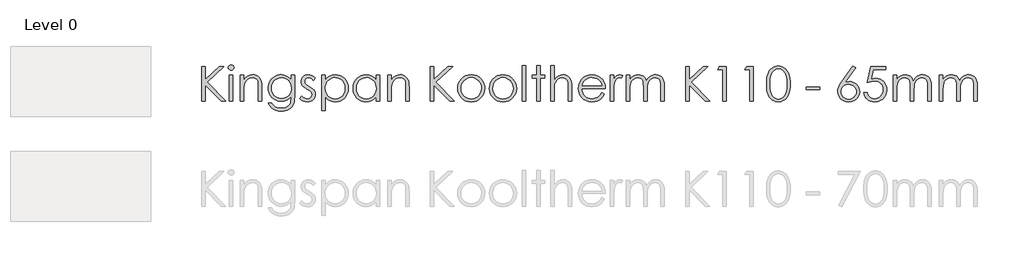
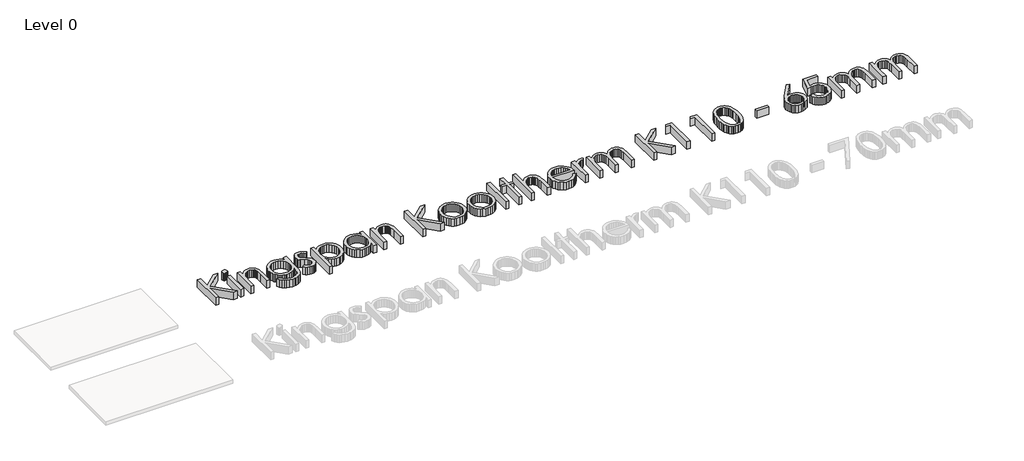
# One storey, part 9 of 9: 1 proxy.
"""IFC4 building model written with IfcOpenShell, lengths in millimetres."""

from ifc_helpers import new_model, si_unit, origin, origin_with_axes, place, context, project, spatial, polyline, outline, extrude, element, save

model = new_model("IFC4")

# Units and contexts
model_context = context("Model", 3, world=origin())
ifc_project = project(units=[si_unit("LENGTHUNIT", "METRE", prefix="MILLI")], contexts=[model_context])

# Site, building, storey
site = spatial("IfcSite", under=ifc_project)
building = spatial("IfcBuilding", under=site)
storey = spatial("IfcBuildingStorey", under=building, Name="Level 0", Elevation=0.0)

# Proxy
placement = place(None, origin())
element("IfcBuildingElementProxy", 1, Name="600mm KI_CenturyGothic", ObjectType="600mm KI_CenturyGothic", at=placement, inside=storey, context=model_context, shape_type="SweptSolid", body=[
    extrude(outline(polyline([(-3852.2663848, 5900.8965983), (-3792.944575, 5900.8965983), (-3792.944575, 5681.683973), (-3555.1938841, 5900.8965983), (-3471.6181051, 5900.8965983), (-3760.9664119, 5633.9484541), (-3441.9572002, 5307.6785001), (-3520.8984627, 5307.6785001), (-3792.944575, 5585.9039675), (-3792.944575, 5307.6785001), (-3852.2663848, 5307.6785001), (-3852.2663848, 5900.8965983)])), origin_with_axes(), (0.0, 0.0, 1.0), 150.0),
    extrude(outline(polyline([(-3348.1854852, 5930.5575033), (-3329.145347, 5927.2747208), (-3313.1176445, 5917.4263735), (-3302.226531, 5902.9821307), (-3298.5961598, 5885.911662), (-3302.226531, 5869.0729191), (-3313.1176445, 5854.7059183), (-3329.145347, 5844.857571), (-3348.1854852, 5841.5747885), (-3366.9938975, 5844.857571), (-3382.9443581, 5854.7059183), (-3393.8354717, 5869.0729191), (-3397.4658428, 5885.911662), (-3393.8354717, 5902.9821307), (-3382.9443581, 5917.4263735), (-3366.9938975, 5927.2747208), (-3348.1854852, 5930.5575033)])), origin_with_axes(), (0.0, 0.0, 1.0), 150.0),
    extrude(outline(polyline([(-3377.6919062, 5752.5920738), (-3318.3700964, 5752.5920738), (-3318.3700964, 5307.6785001), (-3377.6919062, 5307.6785001), (-3377.6919062, 5752.5920738)])), origin_with_axes(), (0.0, 0.0, 1.0), 150.0),
    extrude(outline(polyline([(-3189.8395084, 5752.5920738), (-3130.5176986, 5752.5920738), (-3130.5176986, 5673.4963274), (-3096.9946967, 5713.0055796), (-3060.0730495, 5740.696815), (-3019.7141359, 5757.0334853), (-2975.879335, 5762.4790421), (-2953.4357238, 5760.9004099), (-2932.2955704, 5756.1645135), (-2912.4588747, 5748.2713528), (-2893.9256368, 5737.2209277), (-2877.212412, 5723.4960006), (-2862.835756, 5707.5793333), (-2841.0921499, 5669.1707787), (-2833.6238199, 5644.7912914), (-2828.2892984, 5614.4448643), (-2824.0216812, 5535.8511905), (-2824.0216812, 5307.6785001), (-2883.343491, 5307.6785001), (-2883.343491, 5520.8662542), (-2883.343491, 5623.907002), (-2884.7290183, 5644.7043943), (-2889.8125035, 5662.7596977), (-2898.2849788, 5678.0729123), (-2910.1464442, 5690.644038), (-2924.7403432, 5700.4441091), (-2941.4101193, 5707.4441599), (-2980.977303, 5713.0442006), (-3005.3471351, 5710.8862539), (-3028.4038541, 5704.4124138), (-3050.1474602, 5693.6226803), (-3070.5779533, 5678.5170534), (-3088.6622225, 5660.2348518), (-3103.3671568, 5639.915394), (-3114.6927562, 5617.55868), (-3122.6390208, 5593.1647099), (-3128.5480292, 5546.0857475), (-3130.5176986, 5471.5858965), (-3130.5176986, 5307.6785001), (-3189.8395084, 5307.6785001), (-3189.8395084, 5752.5920738)])), origin_with_axes(), (0.0, 0.0, 1.0), 150.0),
    extrude(outline(polyline([(-2319.7862977, 5752.5920738), (-2260.4644879, 5752.5920738), (-2260.4644879, 5401.604699), (-2264.5196897, 5321.3503235), (-2269.588692, 5290.5500999), (-2276.6852953, 5265.9678526), (-2289.9371156, 5237.3545415), (-2307.2924139, 5212.2267729), (-2328.7511904, 5190.5845469), (-2354.3134448, 5172.4278634), (-2383.3226209, 5158.0656902), (-2415.122162, 5147.8069951), (-2449.7120682, 5141.651778), (-2487.0923395, 5139.6000389), (-2541.0458345, 5143.6166198), (-2589.206184, 5155.6663624), (-2630.260275, 5174.4940853), (-2662.8949946, 5198.8446068), (-2690.2000204, 5232.1938144), (-2715.2650299, 5278.0175952), (-2655.94322, 5278.0175952), (-2642.4355358, 5256.848476), (-2627.0933555, 5238.6048954), (-2609.9166791, 5223.2868532), (-2590.9055067, 5210.8943494), (-2569.7894914, 5201.3308318), (-2546.2982864, 5194.4997477), (-2492.1903075, 5189.0348805), (-2438.5071593, 5194.3645743), (-2415.083541, 5201.0266916), (-2393.93856, 5210.3536559), (-2359.6624492, 5234.3952097), (-2336.8567664, 5263.8823202), (-2329.3884364, 5282.5217658), (-2324.0539149, 5306.2302137), (-2319.7862977, 5368.8541165), (-2319.7862977, 5391.5632468), (-2354.757586, 5355.7809182), (-2396.6420279, 5329.3834852), (-2443.392712, 5313.1047464), (-2492.9627269, 5307.6785001), (-2522.4063889, 5309.5757553), (-2550.9521133, 5315.2675207), (-2578.5999001, 5324.7537964), (-2605.3497494, 5338.0345825), (-2630.1540674, 5354.5257366), (-2651.9652601, 5373.6431168), (-2670.7833277, 5395.3867228), (-2686.6082702, 5419.7565549), (-2699.1456025, 5446.0719183), (-2708.1008399, 5473.6521184), (-2713.4739824, 5502.4971553), (-2715.2650299, 5532.607029), (-2713.3967404, 5562.8955247), (-2707.7918722, 5592.1219437), (-2698.4504251, 5620.286286), (-2685.3723991, 5647.3885517), (-2668.9971079, 5672.5742517), (-2649.7638648, 5694.9888971), (-2627.67267, 5714.632488), (-2602.7235235, 5731.5050242), (-2575.9833294, 5745.056157), (-2548.5189922, 5754.7355376), (-2520.3305117, 5760.543166), (-2491.4178881, 5762.4790421), (-2444.5320306, 5757.5355579), (-2400.8903346, 5742.7051055), (-2359.6045177, 5716.1338782), (-2319.7862977, 5675.9680694), (-2319.7862977, 5752.5920738)]), holes=[polyline([(-2484.1571458, 5713.0442006), (-2529.0154023, 5707.0193293), (-2570.5908765, 5688.9447153), (-2606.2187212, 5660.2300242), (-2633.2340897, 5622.2849212), (-2650.2659375, 5578.0059792), (-2655.94322, 5530.2897708), (-2653.0080263, 5494.3770964), (-2644.2024452, 5461.7182387), (-2629.5264766, 5432.3131977), (-2608.9801206, 5406.1619734), (-2583.7606272, 5384.703197), (-2555.0652466, 5369.3754996), (-2522.8939786, 5360.1788811), (-2487.2468234, 5357.1133416), (-2451.3244937, 5360.154743), (-2419.1001219, 5369.2789472), (-2390.573708, 5384.4859541), (-2365.7452519, 5405.7757637), (-2345.6382095, 5432.0187128), (-2331.2760363, 5462.0851379), (-2322.6587323, 5495.975039), (-2319.7862977, 5533.6884162), (-2325.0773706, 5582.3894593), (-2340.9505892, 5625.6063246), (-2366.4983608, 5661.8327944), (-2400.8130926, 5689.5626508), (-2440.9982119, 5707.1738131), (-2484.1571458, 5713.0442006)])]), origin_with_axes(), (0.0, 0.0, 1.0), 150.0),
    extrude(outline(polyline([(-1904.5336289, 5701.3034257), (-1940.9918246, 5663.609359), (-1962.9575012, 5685.2371022), (-1984.6721416, 5700.6854902), (-2006.1357456, 5709.954523), (-2027.3483133, 5713.0442006), (-2052.181597, 5708.3710632), (-2073.2300256, 5694.3516511), (-2087.5970264, 5674.1142629), (-2092.3860267, 5650.787197), (-2088.4466878, 5629.2366958), (-2076.628671, 5608.7675817), (-2052.0657341, 5586.599145), (-2010.2006027, 5560.877579), (-1958.3326401, 5528.0111336), (-1939.8428507, 5512.1861912), (-1926.315856, 5496.7667689), (-1909.9791857, 5464.0934284), (-1904.5336289, 5427.5579908), (-1906.9474396, 5401.4115941), (-1914.1888714, 5377.3507299), (-1926.2579245, 5355.375398), (-1943.1545989, 5335.4855985), (-1963.6719892, 5318.9944443), (-1986.6031901, 5307.2150485), (-2011.9482016, 5300.147411), (-2039.7070237, 5297.7915318), (-2077.4397114, 5301.6729393), (-2113.3958344, 5313.3171617), (-2145.4512394, 5331.7972958), (-2171.4817731, 5356.1864383), (-2135.7959969, 5396.6612148), (-2114.0041146, 5375.0334717), (-2091.5749863, 5359.5850837), (-2068.5086121, 5350.3160509), (-2044.8049918, 5347.2263733), (-2013.637869, 5352.8650349), (-1987.4914724, 5369.7810198), (-1969.7644472, 5394.3439566), (-1963.8554388, 5422.9234744), (-1967.7561567, 5446.7139919), (-1979.4583106, 5467.7237995), (-2005.0253927, 5489.4287846), (-2050.2119275, 5516.2317378), (-2099.762632, 5546.8967879), (-2117.441381, 5562.0555186), (-2130.3890611, 5577.0983864), (-2146.3781427, 5609.2310334), (-2151.7078365, 5645.689229), (-2149.5305794, 5669.7356104), (-2142.9988078, 5691.6674937), (-2132.1125219, 5711.4848789), (-2116.8717217, 5729.187766), (-2098.309518, 5743.7526993), (-2077.4590218, 5754.1562231), (-2054.3202332, 5760.3983373), (-2028.8931521, 5762.4790421), (-1997.9481, 5758.6555661), (-1966.9064954, 5747.185138), (-1935.7683384, 5728.0677579), (-1904.5336289, 5701.3034257)])), origin_with_axes(), (0.0, 0.0, 1.0), 150.0),
    extrude(outline(polyline([(-1795.7769776, 5752.5920738), (-1736.4551678, 5752.5920738), (-1736.4551678, 5671.4880369), (-1700.9238754, 5711.7310876), (-1660.4490989, 5740.0788795), (-1614.9922173, 5756.8790014), (-1564.5146096, 5762.4790421), (-1520.0618732, 5758.2403906), (-1478.9305402, 5745.5244363), (-1441.1206107, 5724.331179), (-1406.6320845, 5694.6606189), (-1377.9077381, 5659.0231189), (-1357.3903478, 5619.929042), (-1345.0799137, 5577.3783884), (-1340.9764356, 5531.371158), (-1345.0412927, 5484.4708176), (-1357.235864, 5441.2491246), (-1377.5601494, 5401.706079), (-1406.014149, 5365.8416808), (-1440.2130179, 5336.0697406), (-1477.7719111, 5314.8040691), (-1518.6908288, 5302.0446661), (-1562.9697708, 5297.7915318), (-1612.6170277, 5303.256399), (-1658.0545988, 5319.6510008), (-1699.3211052, 5346.8980951), (-1736.4551678, 5384.92044), (-1736.4551678, 5149.4870072), (-1795.7769776, 5149.4870072), (-1795.7769776, 5752.5920738)]), holes=[polyline([(-1568.5311905, 5713.0442006), (-1602.5852307, 5709.7469353), (-1633.8392507, 5699.8551393), (-1662.2932503, 5683.3688128), (-1687.9472295, 5660.2879556), (-1709.1694525, 5632.3022353), (-1724.3281832, 5601.1013192), (-1733.4234216, 5566.6852074), (-1736.4551678, 5529.0538998), (-1731.048232, 5480.1983728), (-1714.8274246, 5436.5180558), (-1688.5265441, 5399.6736505), (-1652.8793888, 5371.3258586), (-1611.4390881, 5353.2512446), (-1567.7587711, 5347.2263733), (-1525.0632888, 5353.2898656), (-1485.0326535, 5371.4803424), (-1450.2544701, 5400.5812433), (-1423.3163435, 5439.3760076), (-1406.05277, 5484.0411593), (-1400.2982454, 5530.7532225), (-1405.9948385, 5577.6970114), (-1423.0846177, 5622.1304373), (-1449.8103289, 5660.4810605), (-1484.414718, 5689.1764411), (-1524.7157001, 5707.0772607), (-1568.5311905, 5713.0442006)])]), origin_with_axes(), (0.0, 0.0, 1.0), 150.0),
    extrude(outline(polyline([(-807.0801472, 5752.5920738), (-807.0801472, 5307.6785001), (-866.401957, 5307.6785001), (-866.401957, 5383.5300851), (-903.4780882, 5345.6815345), (-944.8797679, 5318.9558233), (-990.4525125, 5303.0826047), (-1040.0418379, 5297.7915318), (-1084.3159523, 5302.0446661), (-1125.2203871, 5314.8040691), (-1162.7551422, 5336.0697406), (-1196.9202178, 5365.8416808), (-1225.340424, 5401.706079), (-1245.6405713, 5441.2491246), (-1257.8206597, 5484.4708176), (-1261.8806892, 5531.371158), (-1257.7820388, 5577.3783884), (-1245.4860875, 5619.929042), (-1224.9928353, 5659.0231189), (-1196.3022822, 5694.6606189), (-1161.8475494, 5724.331179), (-1124.061758, 5745.5244363), (-1082.9449079, 5758.2403906), (-1038.4969991, 5762.4790421), (-987.7490446, 5756.8790014), (-942.0990581, 5740.0788795), (-921.2051134, 5727.3918909), (-901.6242816, 5711.7310876), (-866.401957, 5671.4880369), (-866.401957, 5752.5920738), (-807.0801472, 5752.5920738)]), holes=[polyline([(-1034.3259343, 5713.0442006), (-1078.1414247, 5707.0772607), (-1118.4424068, 5689.1764411), (-1153.0467959, 5660.4810605), (-1179.7725071, 5622.1304373), (-1196.8622863, 5577.6970114), (-1202.5588794, 5530.7532225), (-1196.8043548, 5484.0411593), (-1179.5407813, 5439.3760076), (-1152.6026548, 5400.5812433), (-1117.8244713, 5371.4803424), (-1077.6779731, 5353.2898656), (-1034.6349021, 5347.2263733), (-991.0125165, 5353.2512446), (-949.7460102, 5371.3258586), (-914.2726493, 5399.6736505), (-888.0297002, 5436.5180558), (-871.8088928, 5480.1983728), (-866.401957, 5529.0538998), (-869.4337032, 5566.6852074), (-878.5289416, 5601.1013192), (-893.6876723, 5632.3022353), (-914.9098953, 5660.2879556), (-940.5638746, 5683.3688128), (-969.0178742, 5699.8551393), (-1000.2718941, 5709.7469353), (-1034.3259343, 5713.0442006)])]), origin_with_axes(), (0.0, 0.0, 1.0), 150.0),
    extrude(outline(polyline([(-668.662591, 5752.5920738), (-609.3407811, 5752.5920738), (-609.3407811, 5673.4963274), (-575.8177792, 5713.0055796), (-538.896132, 5740.696815), (-498.5372184, 5757.0334853), (-454.7024175, 5762.4790421), (-432.2588064, 5760.9004099), (-411.1186529, 5756.1645135), (-391.2819572, 5748.2713528), (-372.7487193, 5737.2209277), (-356.0354946, 5723.4960006), (-341.6588385, 5707.5793333), (-319.9152324, 5669.1707787), (-312.4469024, 5644.7912914), (-307.1123809, 5614.4448643), (-302.8447637, 5535.8511905), (-302.8447637, 5307.6785001), (-362.1665735, 5307.6785001), (-362.1665735, 5520.8662542), (-362.1665735, 5623.907002), (-363.5521008, 5644.7043943), (-368.635586, 5662.7596977), (-377.1080613, 5678.0729123), (-388.9695267, 5690.644038), (-403.5634257, 5700.4441091), (-420.2332018, 5707.4441599), (-459.8003855, 5713.0442006), (-484.1702176, 5710.8862539), (-507.2269366, 5704.4124138), (-528.9705427, 5693.6226803), (-549.4010358, 5678.5170534), (-567.485305, 5660.2348518), (-582.1902393, 5639.915394), (-593.5158387, 5617.55868), (-601.4621033, 5593.1647099), (-607.3711117, 5546.0857475), (-609.3407811, 5471.5858965), (-609.3407811, 5307.6785001), (-668.662591, 5307.6785001), (-668.662591, 5752.5920738)])), origin_with_axes(), (0.0, 0.0, 1.0), 150.0),
    extrude(outline(polyline([(62.9730635, 5900.8965983), (122.2948734, 5900.8965983), (122.2948734, 5681.683973), (360.0455643, 5900.8965983), (443.6213432, 5900.8965983), (154.2730365, 5633.9484541), (473.2822481, 5307.6785001), (394.3409856, 5307.6785001), (122.2948734, 5585.9039675), (122.2948734, 5307.6785001), (62.9730635, 5307.6785001), (62.9730635, 5900.8965983)])), origin_with_axes(), (0.0, 0.0, 1.0), 150.0),
    extrude(outline(polyline([(760.1588128, 5762.4790421), (809.4681362, 5757.8541809), (854.3553585, 5743.9795975), (894.8204798, 5720.8552917), (930.8635, 5688.4812637), (957.7630055, 5653.2492839), (976.9769381, 5614.908316), (988.5052976, 5573.45836), (992.3480841, 5528.8994159), (988.283227, 5484.0846079), (976.0886558, 5442.1760279), (955.7643703, 5403.1736759), (927.3103707, 5367.0775519), (892.4742558, 5336.7649181), (853.0036246, 5315.1130368), (808.8984769, 5302.1219081), (760.1588128, 5297.7915318), (711.2839754, 5302.1219081), (667.0822753, 5315.1130368), (627.5537126, 5336.7649181), (592.6982872, 5367.0775519), (564.2442876, 5403.1736759), (543.9200022, 5442.1760279), (531.7254309, 5484.0846079), (527.6605738, 5528.8994159), (531.5033603, 5573.2652551), (543.0317198, 5614.5993482), (562.2456524, 5652.9016951), (589.145158, 5688.1722959), (625.2074886, 5720.6814974), (665.7305413, 5743.9023555), (710.7143161, 5757.8348705), (760.1588128, 5762.4790421)]), holes=[polyline([(760.004329, 5713.0442006), (725.7282181, 5709.6696933), (693.9624704, 5699.5461716), (664.7070856, 5682.6736353), (637.962064, 5659.0520846), (615.6584538, 5630.6415336), (599.7273037, 5599.4019965), (590.1686137, 5565.3334734), (586.9823836, 5528.4359643), (592.7948396, 5480.7004454), (610.2322075, 5436.3635719), (637.5758543, 5398.5729529), (673.1071466, 5370.4761972), (714.6439998, 5353.0388293), (760.004329, 5347.2263733), (805.3646581, 5353.0388293), (846.9015113, 5370.4761972), (882.4328037, 5398.5729529), (909.7764504, 5436.3635719), (927.2138183, 5480.7004454), (933.0262743, 5528.4359643), (929.8255614, 5565.3334734), (920.2234227, 5599.4019965), (904.2198583, 5630.6415336), (881.8148681, 5659.0520846), (854.9974321, 5682.6736353), (825.7565303, 5699.5461716), (794.0921625, 5709.6696933), (760.004329, 5713.0442006)])]), origin_with_axes(), (0.0, 0.0, 1.0), 150.0),
    extrude(outline(polyline([(1303.9420695, 5762.4790421), (1353.2513929, 5757.8541809), (1398.1386152, 5743.9795975), (1438.6037365, 5720.8552917), (1474.6467567, 5688.4812637), (1501.5462622, 5653.2492839), (1520.7601948, 5614.908316), (1532.2885543, 5573.45836), (1536.1313408, 5528.8994159), (1532.0664837, 5484.0846079), (1519.8719125, 5442.1760279), (1499.547627, 5403.1736759), (1471.0936274, 5367.0775519), (1436.2575126, 5336.7649181), (1396.7868813, 5315.1130368), (1352.6817336, 5302.1219081), (1303.9420695, 5297.7915318), (1255.0672321, 5302.1219081), (1210.865532, 5315.1130368), (1171.3369693, 5336.7649181), (1136.4815439, 5367.0775519), (1108.0275443, 5403.1736759), (1087.7032589, 5442.1760279), (1075.5086876, 5484.0846079), (1071.4438305, 5528.8994159), (1075.286617, 5573.2652551), (1086.8149766, 5614.5993482), (1106.0289091, 5652.9016951), (1132.9284147, 5688.1722959), (1168.9907453, 5720.6814974), (1209.5137981, 5743.9023555), (1254.4975728, 5757.8348705), (1303.9420695, 5762.4790421)]), holes=[polyline([(1303.7875857, 5713.0442006), (1269.5114748, 5709.6696933), (1237.7457271, 5699.5461716), (1208.4903423, 5682.6736353), (1181.7453207, 5659.0520846), (1159.4417105, 5630.6415336), (1143.5105604, 5599.4019965), (1133.9518704, 5565.3334734), (1130.7656404, 5528.4359643), (1136.5780963, 5480.7004454), (1154.0154643, 5436.3635719), (1181.359111, 5398.5729529), (1216.8904033, 5370.4761972), (1258.4272565, 5353.0388293), (1303.7875857, 5347.2263733), (1349.1479149, 5353.0388293), (1390.684768, 5370.4761972), (1426.2160604, 5398.5729529), (1453.5597071, 5436.3635719), (1470.997075, 5480.7004454), (1476.809531, 5528.4359643), (1473.6088181, 5565.3334734), (1464.0066795, 5599.4019965), (1448.003115, 5630.6415336), (1425.5981249, 5659.0520846), (1398.7806889, 5682.6736353), (1369.539787, 5699.5461716), (1337.8754193, 5709.6696933), (1303.7875857, 5713.0442006)])]), origin_with_axes(), (0.0, 0.0, 1.0), 150.0),
    extrude(outline(polyline([(1635.0010238, 5920.6705349), (1694.3228337, 5920.6705349), (1694.3228337, 5307.6785001), (1635.0010238, 5307.6785001), (1635.0010238, 5920.6705349)])), origin_with_axes(), (0.0, 0.0, 1.0), 150.0),
    extrude(outline(polyline([(1882.1752314, 5920.6705349), (1941.4970413, 5920.6705349), (1941.4970413, 5752.5920738), (2020.5927877, 5752.5920738), (2020.5927877, 5703.1572323), (1941.4970413, 5703.1572323), (1941.4970413, 5307.6785001), (1882.1752314, 5307.6785001), (1882.1752314, 5703.1572323), (1803.079485, 5703.1572323), (1803.079485, 5752.5920738), (1882.1752314, 5752.5920738), (1882.1752314, 5920.6705349)])), origin_with_axes(), (0.0, 0.0, 1.0), 150.0),
    extrude(outline(polyline([(2119.4624707, 5920.6705349), (2178.7842806, 5920.6705349), (2178.7842806, 5671.9514886), (2212.5583188, 5711.6538456), (2249.6151394, 5739.9243956), (2289.9161216, 5756.8403805), (2333.4226442, 5762.4790421), (2355.8662553, 5760.9004099), (2377.0064088, 5756.1645135), (2396.8431044, 5748.2713528), (2415.3763424, 5737.2209277), (2432.0895671, 5723.5104834), (2446.4662232, 5707.6372648), (2468.2098293, 5669.4025045), (2475.6781593, 5645.0954316), (2481.0126808, 5614.7345216), (2485.280298, 5535.8511905), (2485.280298, 5307.6785001), (2425.9584882, 5307.6785001), (2425.9584882, 5520.8662542), (2424.5681332, 5585.247411), (2420.3970685, 5623.907002), (2406.879729, 5662.7596977), (2397.1665551, 5678.0729123), (2385.4837117, 5690.644038), (2371.840854, 5700.4441091), (2356.2476374, 5707.4441599), (2319.2101273, 5713.0442006), (2296.3416854, 5710.8862539), (2274.6994594, 5704.4124138), (2254.2834492, 5693.6226803), (2235.0936547, 5678.5170534), (2218.1052556, 5660.2348518), (2204.2934312, 5639.915394), (2193.6581816, 5617.55868), (2186.1995068, 5593.1647099), (2180.6380871, 5546.3174733), (2178.7842806, 5471.5858965), (2178.7842806, 5307.6785001), (2119.4624707, 5307.6785001), (2119.4624707, 5920.6705349)])), origin_with_axes(), (0.0, 0.0, 1.0), 150.0),
    extrude(outline(polyline([(2991.0605203, 5455.9830247), (3038.950523, 5430.8021523), (3013.3255094, 5388.9177104), (2984.0315038, 5355.9547125), (2950.952643, 5330.8703926), (2913.9730643, 5312.6219843), (2872.4941426, 5301.4991449), (2825.9172528, 5297.7915318), (2774.4258447, 5302.2232881), (2728.8627554, 5315.518557), (2689.227985, 5337.6773385), (2655.5215335, 5368.6996326), (2628.6220279, 5405.3026569), (2609.4080954, 5444.2036288), (2597.8797358, 5485.4025485), (2594.0369493, 5528.8994159), (2597.3197318, 5569.7797126), (2607.1680791, 5608.381372), (2623.5819913, 5644.7043943), (2646.5614684, 5678.7487793), (2682.7493173, 5715.3807692), (2724.5758277, 5741.5464764), (2772.0409998, 5757.2459007), (2825.1448334, 5762.4790421), (2879.7935059, 5757.1107273), (2928.6490329, 5741.0057828), (2971.7114143, 5714.1642087), (3008.9806503, 5676.5860049), (3030.4539096, 5644.414737), (3045.9022976, 5608.458614), (3055.3258143, 5568.7176359), (3058.7244596, 5525.1918028), (2653.3587591, 5525.1918028), (2657.095338, 5487.9370497), (2666.6057518, 5454.1871496), (2681.8900007, 5423.9421025), (2702.9480845, 5397.2019084), (2728.3124066, 5375.3376118), (2756.5153699, 5359.7202571), (2787.5569744, 5350.3498443), (2821.4372203, 5347.2263733), (2854.9602222, 5350.238809), (2887.5563208, 5359.2761159), (2917.2944677, 5373.3148385), (2942.2436143, 5391.331521), (2965.725164, 5417.4972281), (2991.0605203, 5455.9830247)]), holes=[polyline([(2999.4026498, 5574.6266443), (2984.9777175, 5617.1483322), (2965.1844704, 5650.1692615), (2939.0766947, 5675.6977226), (2905.7081767, 5695.742006), (2867.7630738, 5708.7186519), (2827.9255433, 5713.0442006), (2795.503239, 5710.3310774), (2765.4368139, 5702.191708), (2737.726268, 5688.6260923), (2712.3716012, 5669.6342304), (2695.8321708, 5651.820308), (2681.4362043, 5630.0477362), (2669.1837016, 5604.316515), (2659.0746627, 5574.6266443), (2999.4026498, 5574.6266443)])]), origin_with_axes(), (0.0, 0.0, 1.0), 150.0),
    extrude(outline(polyline([(3137.820206, 5752.5920738), (3197.1420159, 5752.5920738), (3197.1420159, 5688.1722959), (3222.6897875, 5721.2125357), (3249.589293, 5744.3271862), (3277.7632906, 5757.9410781), (3307.1345382, 5762.4790421), (3330.4616041, 5758.694187), (3355.3335087, 5747.3396219), (3325.8270877, 5705.3200066), (3297.2475699, 5713.0442006), (3270.8308265, 5707.0965712), (3245.3409863, 5689.2536831), (3223.2884125, 5658.8976007), (3207.183468, 5615.4103886), (3199.6523789, 5557.2858288), (3197.1420159, 5459.8451217), (3197.1420159, 5307.6785001), (3137.820206, 5307.6785001), (3137.820206, 5752.5920738)])), origin_with_axes(), (0.0, 0.0, 1.0), 150.0),
    extrude(outline(polyline([(3414.6553185, 5752.5920738), (3473.9771284, 5752.5920738), (3473.9771284, 5676.4315211), (3503.5607913, 5712.9283377), (3533.9168737, 5738.0705891), (3577.3268439, 5756.3769288), (3622.8995884, 5762.4790421), (3653.7384329, 5759.331433), (3682.9165757, 5749.8886059), (3708.6767627, 5735.2126373), (3729.2617397, 5716.365604), (3746.0425511, 5690.9336953), (3760.3902414, 5656.5031006), (3775.16759, 5680.9018983), (3791.6925376, 5702.191708), (3809.965084, 5720.3725296), (3829.9852293, 5735.4443631), (3851.2798666, 5747.2720352), (3873.375889, 5755.7203723), (3896.2732965, 5760.7893747), (3919.9720892, 5762.4790421), (3962.3006723, 5756.6665861), (3981.4952943, 5749.4010161), (3999.3768034, 5739.2292182), (4015.4914031, 5726.46016), (4029.385297, 5711.4028093), (4050.5109676, 5674.4232306), (4057.8103309, 5651.0478886), (4063.0241619, 5622.4780261), (4067.1952266, 5549.7547397), (4067.1952266, 5307.6785001), (4007.8734168, 5307.6785001), (4007.8734168, 5553.3078689), (4005.4209852, 5614.4255538), (3998.0636904, 5652.8727294), (3984.7587663, 5677.3391139), (3964.4634466, 5696.5144254), (3938.3942919, 5708.9117568), (3907.7678627, 5713.0442006), (3888.1194443, 5711.4945341), (3869.3399976, 5706.8455349), (3834.3880198, 5688.2495379), (3805.6540182, 5659.3031209), (3785.8800816, 5622.0531954), (3779.1889985, 5597.8957787), (3774.4096535, 5566.8252084), (3770.5861775, 5483.9446069), (3770.5861775, 5307.6785001), (3711.2643677, 5307.6785001), (3711.2643677, 5538.0139648), (3708.850557, 5606.469634), (3701.6091252, 5648.7016647), (3688.3621325, 5674.9446137), (3667.9316394, 5695.4330383), (3641.6114484, 5708.64141), (3610.6953619, 5713.0442006), (3573.7544042, 5707.0000188), (3539.2465676, 5688.8674734), (3510.2808401, 5660.500371), (3489.9662099, 5623.7525181), (3477.9743988, 5571.9231764), (3473.9771284, 5498.3116077), (3473.9771284, 5307.6785001), (3414.6553185, 5307.6785001), (3414.6553185, 5752.5920738)])), origin_with_axes(), (0.0, 0.0, 1.0), 150.0),
    extrude(outline(polyline([(4433.0130538, 5900.8965983), (4492.3348637, 5900.8965983), (4492.3348637, 5681.683973), (4730.0855546, 5900.8965983), (4813.6613335, 5900.8965983), (4524.3130268, 5633.9484541), (4843.3222385, 5307.6785001), (4764.3809759, 5307.6785001), (4492.3348637, 5585.9039675), (4492.3348637, 5307.6785001), (4433.0130538, 5307.6785001), (4433.0130538, 5900.8965983)])), origin_with_axes(), (0.0, 0.0, 1.0), 150.0),
    extrude(outline(polyline([(5010.6282802, 5900.8965983), (5125.1008351, 5900.8965983), (5125.1008351, 5307.6785001), (5065.7790253, 5307.6785001), (5065.7790253, 5851.4617568), (4976.7963106, 5851.4617568), (5010.6282802, 5900.8965983)])), origin_with_axes(), (0.0, 0.0, 1.0), 150.0),
    extrude(outline(polyline([(5475.3157905, 5900.8965983), (5589.7883454, 5900.8965983), (5589.7883454, 5307.6785001), (5530.4665356, 5307.6785001), (5530.4665356, 5851.4617568), (5441.4838208, 5851.4617568), (5475.3157905, 5900.8965983)])), origin_with_axes(), (0.0, 0.0, 1.0), 150.0),
    extrude(outline(polyline([(5817.1886164, 5604.1330653), (5818.7672485, 5658.5644948), (5823.503145, 5706.4593252), (5831.3963057, 5747.8175564), (5842.4467307, 5782.6391884), (5856.374418, 5812.2807828), (5872.8993655, 5838.0989012), (5892.0215733, 5860.0935436), (5913.7410412, 5878.26471), (5937.4350063, 5892.4917098), (5962.4807053, 5902.6538525), (5988.8781382, 5908.7511381), (6016.6273051, 5910.7835666), (6044.8302684, 5908.7366552), (6071.6621873, 5902.595921), (6097.1230617, 5892.361364), (6121.2128917, 5878.0329841), (6143.3958113, 5859.6156091), (6163.1359546, 5837.1140665), (6180.4333215, 5810.5283563), (6195.2879121, 5779.8584786), (6207.2169642, 5744.3416691), (6215.7377157, 5703.2151637), (6220.8501666, 5656.4789625), (6222.5543169, 5604.1330653), (6220.8743047, 5551.9464797), (6215.8342681, 5505.3792452), (6207.4342071, 5464.4313618), (6195.6741218, 5429.1028296), (6180.9643599, 5398.5777805), (6163.7152692, 5372.0403465), (6143.9268497, 5349.4905277), (6121.5991014, 5330.928324), (6097.3403047, 5316.4309774), (6071.7587397, 5306.0757299), (6044.8544066, 5299.8625813), (6016.6273051, 5297.7915318), (5988.9022764, 5299.7998222), (5962.5772577, 5305.8246936), (5937.6522492, 5315.8661457), (5914.1272509, 5329.9241788), (5892.5526116, 5347.9601718), (5873.4786801, 5369.9355036), (5856.9054564, 5395.8501745), (5842.8329404, 5425.7041842), (5831.6135487, 5460.7237487), (5823.5996974, 5502.1350837), (5818.7913866, 5549.9381893), (5817.1886164, 5604.1330653)]), holes=[polyline([(5876.5104262, 5604.2875492), (5880.8939063, 5515.961391), (5886.3732564, 5480.9804475), (5894.0443466, 5452.1209277), (5903.8589006, 5427.8814414), (5915.7686422, 5406.7605985), (5929.7735714, 5388.7583989), (5945.8736882, 5373.8748426), (5981.1732547, 5353.8884906), (5999.5761469, 5348.8919027), (6018.4811117, 5347.2263733), (6037.4729737, 5348.8581093), (6055.8275896, 5353.7533172), (6090.6250835, 5373.334149), (6106.3824393, 5388.0101176), (6120.1315046, 5405.9302476), (6131.8722794, 5427.0945392), (6141.6047639, 5451.5029922), (6151.0669015, 5484.8618549), (6157.8255712, 5521.4455687), (6163.232507, 5604.2875492), (6158.4048858, 5685.8936587), (6152.3703592, 5720.5849449), (6143.9220221, 5751.2017189), (6133.3398763, 5777.864671), (6120.903924, 5800.6944918), (6106.6141651, 5819.6911814), (6090.4705997, 5834.8547397), (6055.402759, 5854.7252288), (6037.1736612, 5859.692851), (6018.4811117, 5861.3487251), (5999.4651116, 5859.692851), (5981.0380814, 5854.7252288), (5945.9509302, 5834.8547397), (5930.0052972, 5820.0435978), (5916.0776099, 5802.1041572), (5904.1678683, 5781.0364181), (5894.2760724, 5756.8403805), (5886.5036022, 5727.9856883), (5880.9518378, 5692.9419857), (5876.5104262, 5604.2875492)])]), origin_with_axes(), (0.0, 0.0, 1.0), 150.0),
    extrude(outline(polyline([(6499.3894294, 5554.8527077), (6726.7897004, 5554.8527077), (6726.7897004, 5505.4178662), (6499.3894294, 5505.4178662), (6499.3894294, 5554.8527077)])), origin_with_axes(), (0.0, 0.0, 1.0), 150.0),
    extrude(outline(polyline([(7290.3468937, 5910.7835666), (7342.7169289, 5885.1392426), (7166.605306, 5639.0464222), (7229.1712773, 5643.8354224), (7265.2915394, 5640.7650553), (7298.5731603, 5631.553954), (7329.0161398, 5616.2021184), (7356.6204781, 5594.7095487), (7379.5323685, 5568.7272912), (7395.8980045, 5539.9063923), (7405.7173861, 5508.2468522), (7408.9905133, 5473.7486708), (7407.4601574, 5449.6974618), (7402.8690896, 5426.8241924), (7395.2173099, 5405.1288625), (7384.5048184, 5384.6114722), (7370.9826513, 5365.7065074), (7354.9018449, 5348.8484541), (7315.0643144, 5321.2730815), (7268.3715618, 5303.6619192), (7218.2029218, 5297.7915318), (7169.830157, 5303.6426087), (7125.1263843, 5321.1958396), (7104.8407198, 5334.0807607), (7086.8530031, 5349.3312162), (7071.163234, 5366.9472061), (7057.7714127, 5386.9287304), (7039.4071415, 5430.7635313), (7033.2857178, 5477.6107678), (7037.1091938, 5514.5517256), (7048.5796219, 5553.3851108), (7069.8983973, 5597.2006012), (7103.2669153, 5649.0878744), (7290.3468937, 5910.7835666)]), holes=[polyline([(7216.5035992, 5594.4005809), (7190.2268567, 5592.1412542), (7166.5473745, 5585.363274), (7145.4651526, 5574.0666402), (7126.9801908, 5558.2513531), (7111.9421507, 5539.2208701), (7101.2006934, 5518.2786492), (7094.755819, 5495.4246902), (7092.6075276, 5470.6589932), (7094.9585791, 5446.0284697), (7102.0117338, 5423.2710631), (7113.7669915, 5402.3867736), (7130.2243523, 5383.3756012), (7150.0127718, 5367.560314), (7171.7612055, 5356.2636803), (7195.4696534, 5349.4857001), (7221.1381155, 5347.2263733), (7246.8065777, 5349.4857001), (7270.5150256, 5356.2636803), (7292.2634593, 5367.560314), (7312.0518788, 5383.3756012), (7328.5092396, 5402.3867736), (7340.2644973, 5423.2710631), (7347.317652, 5446.0284697), (7349.6687035, 5470.6589932), (7347.2307548, 5495.4246902), (7339.9169086, 5518.2786492), (7327.727165, 5539.2208701), (7310.6615239, 5558.2513531), (7290.1489612, 5574.0666402), (7267.6184529, 5585.363274), (7243.0699988, 5592.1412542), (7216.5035992, 5594.4005809)])]), origin_with_axes(), (0.0, 0.0, 1.0), 150.0),
    extrude(outline(polyline([(7853.904087, 5900.8965983), (7853.904087, 5851.4617568), (7646.5867204, 5851.4617568), (7612.1368152, 5690.4895541), (7649.7150189, 5699.9903127), (7683.3538838, 5703.1572323), (7722.9403779, 5699.7344488), (7758.8965009, 5689.4660984), (7791.2222528, 5672.3521811), (7819.9176335, 5648.3926969), (7843.4378041, 5619.0842083), (7860.2379261, 5585.923278), (7870.3179992, 5548.909906), (7873.6780236, 5508.0440921), (7871.9545628, 5479.0783647), (7866.7841805, 5451.3485083), (7858.1668766, 5424.8545229), (7846.1026511, 5399.5964086), (7831.0984042, 5376.3948609), (7813.6610363, 5356.0705754), (7793.7905473, 5338.6235523), (7771.4869371, 5324.0537914), (7747.054346, 5312.5640528), (7720.7969141, 5304.3570967), (7692.7146413, 5299.432923), (7662.8075277, 5297.7915318), (7627.4741679, 5300.5481035), (7595.008415, 5308.8178187), (7565.4102692, 5322.6006774), (7538.6797304, 5341.8966795), (7515.9271515, 5365.5665064), (7498.2628853, 5392.4708396), (7485.686932, 5422.609679), (7478.1992914, 5455.9830247), (7537.5211013, 5455.9830247), (7547.0991018, 5423.2517526), (7561.6205865, 5397.3563923), (7581.4524546, 5377.0417621), (7606.9616052, 5361.0526806), (7635.9852641, 5350.6829501), (7666.360657, 5347.2263733), (7695.6498351, 5350.1519118), (7722.8052045, 5358.9285272), (7747.8267654, 5373.5562196), (7770.7145178, 5394.0349889), (7789.8077598, 5418.9068935), (7803.4457898, 5446.7139919), (7811.6286078, 5477.456284), (7814.3562138, 5511.1337697), (7811.8941269, 5541.3208854), (7804.5078664, 5568.5438415), (7792.1974323, 5592.8026383), (7774.9628244, 5614.0972756), (7753.6054281, 5631.4332635), (7728.9266283, 5643.816112), (7700.9264251, 5651.245821), (7669.6048185, 5653.7223907), (7640.8997825, 5651.8685842), (7609.3174844, 5646.3071645), (7537.5211013, 5624.0614858), (7596.8429111, 5900.8965983), (7853.904087, 5900.8965983)])), origin_with_axes(), (0.0, 0.0, 1.0), 150.0),
    extrude(outline(polyline([(7982.4346749, 5752.5920738), (8041.7564848, 5752.5920738), (8041.7564848, 5676.4315211), (8071.3401477, 5712.9283377), (8101.6962301, 5738.0705891), (8145.1062003, 5756.3769288), (8190.6789448, 5762.4790421), (8221.5177893, 5759.331433), (8250.6959321, 5749.8886059), (8276.4561191, 5735.2126373), (8297.0410961, 5716.365604), (8313.8219075, 5690.9336953), (8328.1695978, 5656.5031006), (8342.9469464, 5680.9018983), (8359.471894, 5702.191708), (8377.7444404, 5720.3725296), (8397.7645856, 5735.4443631), (8419.0592229, 5747.2720352), (8441.1552454, 5755.7203723), (8464.0526529, 5760.7893747), (8487.7514456, 5762.4790421), (8530.0800287, 5756.6665861), (8549.2746507, 5749.4010161), (8567.1561598, 5739.2292182), (8583.2707595, 5726.46016), (8597.1646534, 5711.4028093), (8618.290324, 5674.4232306), (8625.5896873, 5651.0478886), (8630.8035182, 5622.4780261), (8634.974583, 5549.7547397), (8634.974583, 5307.6785001), (8575.6527732, 5307.6785001), (8575.6527732, 5553.3078689), (8573.2003416, 5614.4255538), (8565.8430468, 5652.8727294), (8552.5381227, 5677.3391139), (8532.242803, 5696.5144254), (8506.1736483, 5708.9117568), (8475.5472191, 5713.0442006), (8455.8988006, 5711.4945341), (8437.119354, 5706.8455349), (8402.1673762, 5688.2495379), (8373.4333746, 5659.3031209), (8353.659438, 5622.0531954), (8346.9683549, 5597.8957787), (8342.1890099, 5566.8252084), (8338.3655339, 5483.9446069), (8338.3655339, 5307.6785001), (8279.0437241, 5307.6785001), (8279.0437241, 5538.0139648), (8276.6299134, 5606.469634), (8269.3884816, 5648.7016647), (8256.1414889, 5674.9446137), (8235.7109958, 5695.4330383), (8209.3908048, 5708.64141), (8178.4747183, 5713.0442006), (8141.5337606, 5707.0000188), (8107.025924, 5688.8674734), (8078.0601965, 5660.500371), (8057.7455663, 5623.7525181), (8045.7537552, 5571.9231764), (8041.7564848, 5498.3116077), (8041.7564848, 5307.6785001), (7982.4346749, 5307.6785001), (7982.4346749, 5752.5920738)])), origin_with_axes(), (0.0, 0.0, 1.0), 150.0),
    extrude(outline(polyline([(8773.3921393, 5752.5920738), (8832.7139491, 5752.5920738), (8832.7139491, 5676.4315211), (8862.2976121, 5712.9283377), (8892.6536944, 5738.0705891), (8936.0636646, 5756.3769288), (8981.6364092, 5762.4790421), (9012.4752537, 5759.331433), (9041.6533964, 5749.8886059), (9067.4135834, 5735.2126373), (9087.9985604, 5716.365604), (9104.7793718, 5690.9336953), (9119.1270621, 5656.5031006), (9133.9044108, 5680.9018983), (9150.4293583, 5702.191708), (9168.7019047, 5720.3725296), (9188.72205, 5735.4443631), (9210.0166873, 5747.2720352), (9232.1127097, 5755.7203723), (9255.0101172, 5760.7893747), (9278.7089099, 5762.4790421), (9321.037493, 5756.6665861), (9340.232115, 5749.4010161), (9358.1136241, 5739.2292182), (9374.2282238, 5726.46016), (9388.1221177, 5711.4028093), (9409.2477883, 5674.4232306), (9416.5471516, 5651.0478886), (9421.7609826, 5622.4780261), (9425.9320473, 5549.7547397), (9425.9320473, 5307.6785001), (9366.6102375, 5307.6785001), (9366.6102375, 5553.3078689), (9364.1578059, 5614.4255538), (9356.8005111, 5652.8727294), (9343.495587, 5677.3391139), (9323.2002673, 5696.5144254), (9297.1311126, 5708.9117568), (9266.5046834, 5713.0442006), (9246.856265, 5711.4945341), (9228.0768183, 5706.8455349), (9193.1248405, 5688.2495379), (9164.3908389, 5659.3031209), (9144.6169023, 5622.0531954), (9137.9258192, 5597.8957787), (9133.1464742, 5566.8252084), (9129.3229982, 5483.9446069), (9129.3229982, 5307.6785001), (9070.0011884, 5307.6785001), (9070.0011884, 5538.0139648), (9067.5873778, 5606.469634), (9060.3459459, 5648.7016647), (9047.0989532, 5674.9446137), (9026.6684601, 5695.4330383), (9000.3482691, 5708.64141), (8969.4321827, 5713.0442006), (8932.4912249, 5707.0000188), (8897.9833883, 5688.8674734), (8869.0176608, 5660.500371), (8848.7030306, 5623.7525181), (8836.7112195, 5571.9231764), (8832.7139491, 5498.3116077), (8832.7139491, 5307.6785001), (8773.3921393, 5307.6785001), (8773.3921393, 5752.5920738)])), origin_with_axes(), (0.0, 0.0, 1.0), 150.0),
])

save(model, "model.ifc")
